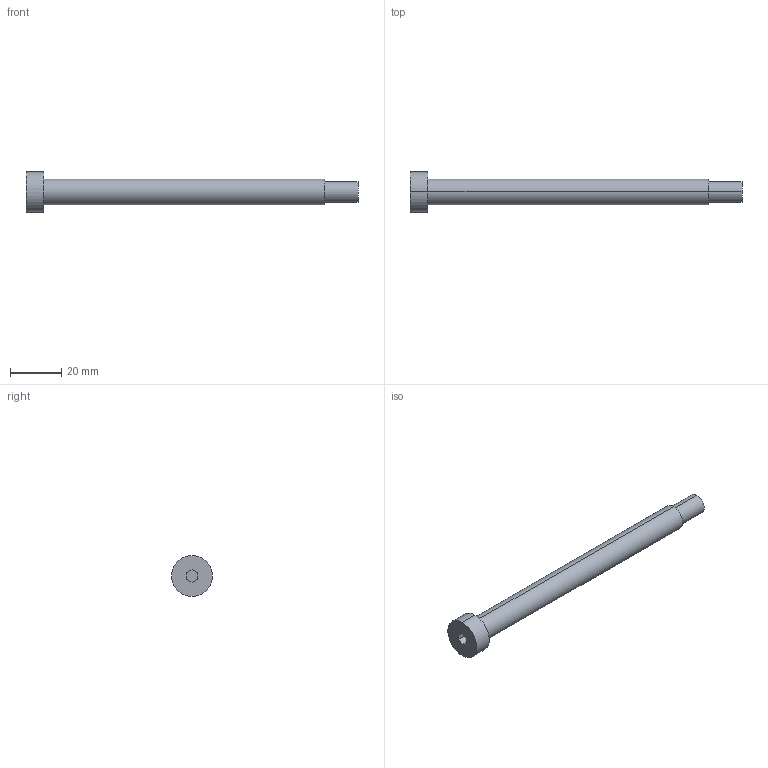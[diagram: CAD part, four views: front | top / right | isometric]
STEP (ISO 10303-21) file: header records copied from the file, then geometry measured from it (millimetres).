
FILE_DESCRIPTION (( 'STEP AP214' ), '1' );
FILE_NAME ('TPM-8x110.STEP', '2020-07-06T13:18:21', ( '' ), ( '' ), 'SwSTEP 2.0', 'SolidWorks 2018', '' );
FILE_SCHEMA (( 'AUTOMOTIVE_DESIGN' ));
Length unit declared in the file: millimetre
Products named in the file (1): TPM-8x110
Bounding box: 130 x 16 x 16 mm (x, y, z)
Volume: 10619.1 mm3; surface area: 4611.5 mm2
Topology: 1 solids, 1 shells, 17 faces, 36 edges, 24 vertices
Faces by surface type: plane 11, cylinder 6
Entity records: 496 total; most frequent: DIRECTION 84, CARTESIAN_POINT 78, ORIENTED_EDGE 72, EDGE_CURVE 36, AXIS2_PLACEMENT_3D 30, VECTOR 24, LINE 24, VERTEX_POINT 24
